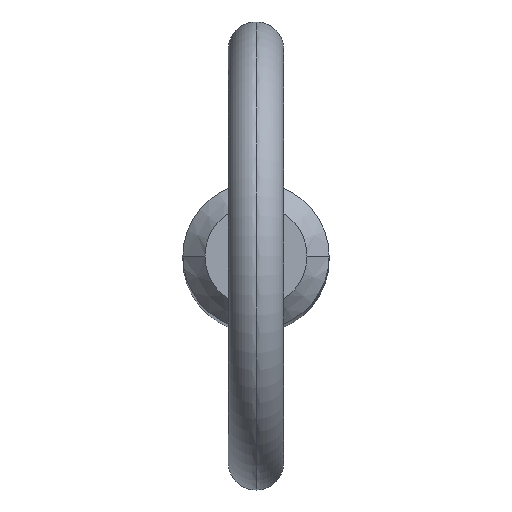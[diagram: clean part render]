
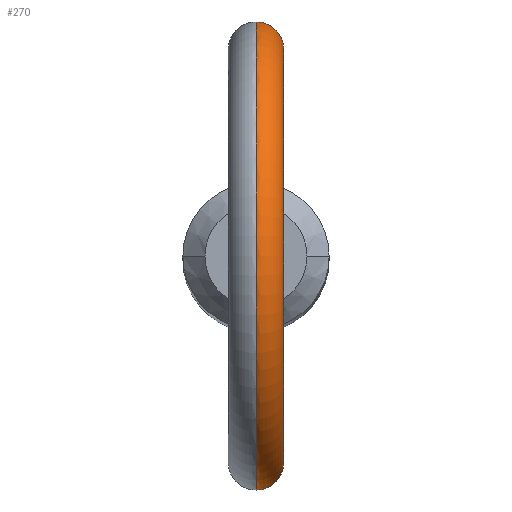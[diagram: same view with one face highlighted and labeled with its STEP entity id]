
A CAD part, top view. The second image highlights one B-rep face of the part: STEP entity #270.
In plain terms, the highlighted toroidal (fillet/blend) face has major radius 11.2 mm and minor radius 1.5 mm.
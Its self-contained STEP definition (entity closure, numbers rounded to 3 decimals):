
#2 = CARTESIAN_POINT ( 'NONE',  ( 0., 3.965, 95.247 ) ) ;
#13 = CARTESIAN_POINT ( 'NONE',  ( 0.404, -3.946, 95.182 ) ) ;
#19 = AXIS2_PLACEMENT_3D ( 'NONE', #433, #244, #319 ) ;
#39 = CARTESIAN_POINT ( 'NONE',  ( 1.499, 3.671, 93.394 ) ) ;
#44 = FACE_OUTER_BOUND ( 'NONE', #103, .T. ) ;
#55 = CARTESIAN_POINT ( 'NONE',  ( 0.949, -3.851, 92.349 ) ) ;
#62 = DIRECTION ( 'NONE',  ( 0., 0., -1. ) ) ;
#63 = DIRECTION ( 'NONE',  ( 1., 0., 0. ) ) ;
#70 = EDGE_CURVE ( 'NONE', #350, #146, #361, .T. ) ;
#72 = CARTESIAN_POINT ( 'NONE',  ( 0.782, 3.888, 92.237 ) ) ;
#77 = CARTESIAN_POINT ( 'NONE',  ( 1.344, 3.731, 92.803 ) ) ;
#81 = CARTESIAN_POINT ( 'NONE',  ( 0., -3.965, 95.247 ) ) ;
#84 = CARTESIAN_POINT ( 'NONE',  ( 0., 3.965, 95.247 ) ) ;
#89 = CIRCLE ( 'NONE', #19, 12.7 ) ;
#103 = EDGE_LOOP ( 'NONE', ( #407, #424, #453, #127 ) ) ;
#119 = CARTESIAN_POINT ( 'NONE',  ( 1.447, 3.692, 93.093 ) ) ;
#127 = ORIENTED_EDGE ( 'NONE', *, *, #363, .F. ) ;
#137 = CARTESIAN_POINT ( 'NONE',  ( 0.205, -3.961, 95.234 ) ) ;
#141 = CARTESIAN_POINT ( 'NONE',  ( 1.291, -3.75, 94.383 ) ) ;
#142 = CARTESIAN_POINT ( 'NONE',  ( 1.471, -3.682, 93.194 ) ) ;
#146 = VERTEX_POINT ( 'NONE', #330 ) ;
#149 = CIRCLE ( 'NONE', #184, 9.7 ) ;
#167 = CARTESIAN_POINT ( 'NONE',  ( 1.488, 3.675, 93.805 ) ) ;
#177 = CARTESIAN_POINT ( 'NONE',  ( 1.346, -3.73, 92.808 ) ) ;
#179 = CARTESIAN_POINT ( 'NONE',  ( 1.499, -3.671, 93.397 ) ) ;
#180 = CARTESIAN_POINT ( 'NONE',  ( 0.782, -3.888, 92.237 ) ) ;
#184 = AXIS2_PLACEMENT_3D ( 'NONE', #359, #202, #312 ) ;
#195 = CARTESIAN_POINT ( 'NONE',  ( 0.41, 3.948, 92.074 ) ) ;
#196 = CARTESIAN_POINT ( 'NONE',  ( 0., -3.965, 95.247 ) ) ;
#199 = CARTESIAN_POINT ( 'NONE',  ( 1.47, 3.682, 93.192 ) ) ;
#202 = DIRECTION ( 'NONE',  ( 1., 0., 0. ) ) ;
#213 = CARTESIAN_POINT ( 'NONE',  ( 0.102, -3.965, 95.247 ) ) ;
#216 = CARTESIAN_POINT ( 'NONE',  ( 0.205, -3.965, 92.035 ) ) ;
#217 = CARTESIAN_POINT ( 'NONE',  ( 1.503, -3.669, 93.499 ) ) ;
#231 = CARTESIAN_POINT ( 'NONE',  ( 0.204, 3.965, 92.035 ) ) ;
#243 = CARTESIAN_POINT ( 'NONE',  ( 0.769, 3.894, 95.001 ) ) ;
#244 = DIRECTION ( 'NONE',  ( 1., 0., 0. ) ) ;
#260 = CARTESIAN_POINT ( 'NONE',  ( 1.447, -3.692, 93.093 ) ) ;
#270 = ADVANCED_FACE ( 'NONE', ( #44 ), #458, .T. ) ;
#280 = CARTESIAN_POINT ( 'NONE',  ( 1.026, 3.831, 92.413 ) ) ;
#296 = CARTESIAN_POINT ( 'NONE',  ( 0.498, -3.935, 95.144 ) ) ;
#297 = CARTESIAN_POINT ( 'NONE',  ( 1.237, -3.77, 92.631 ) ) ;
#298 = VERTEX_POINT ( 'NONE', #423 ) ;
#304 = CARTESIAN_POINT ( 'NONE',  ( 0., 0., 104.1 ) ) ;
#312 = DIRECTION ( 'NONE',  ( 0., 0., -1. ) ) ;
#316 = CARTESIAN_POINT ( 'NONE',  ( 1.236, 3.77, 92.629 ) ) ;
#319 = DIRECTION ( 'NONE',  ( 0., 0., -1. ) ) ;
#330 = CARTESIAN_POINT ( 'NONE',  ( 0., -3.965, 92.035 ) ) ;
#333 = CARTESIAN_POINT ( 'NONE',  ( 1.028, -3.83, 92.415 ) ) ;
#347 = EDGE_CURVE ( 'NONE', #298, #146, #89, .T. ) ;
#350 = VERTEX_POINT ( 'NONE', #81 ) ;
#351 = CARTESIAN_POINT ( 'NONE',  ( 0.206, 3.965, 95.247 ) ) ;
#359 = CARTESIAN_POINT ( 'NONE',  ( 0., 0., 104.1 ) ) ;
#361 = B_SPLINE_CURVE_WITH_KNOTS ( 'NONE', 3,
 ( #196, #213, #137, #13, #296, #493, #415, #418, #141, #374, #492, #379, #417, #217, #179, #142, #260, #177, #297, #333, #55, #180, #446, #450, #216, #496 ),
 .UNSPECIFIED., .F., .F.,
 ( 4, 2, 2, 2, 2, 2, 2, 2, 2, 2, 2, 2, 4 ),
 ( 0.004, 0.005, 0.005, 0.005, 0.006, 0.006, 0.007, 0.007, 0.007, 0.008, 0.008, 0.008, 0.009 ),
 .UNSPECIFIED. ) ;
#362 = CARTESIAN_POINT ( 'NONE',  ( 1.185, 3.786, 94.56 ) ) ;
#363 = EDGE_CURVE ( 'NONE', #381, #350, #149, .T. ) ;
#374 = CARTESIAN_POINT ( 'NONE',  ( 1.404, -3.708, 94.101 ) ) ;
#379 = CARTESIAN_POINT ( 'NONE',  ( 1.479, -3.679, 93.807 ) ) ;
#381 = VERTEX_POINT ( 'NONE', #84 ) ;
#396 = CARTESIAN_POINT ( 'NONE',  ( 0.927, 3.858, 94.867 ) ) ;
#403 = CARTESIAN_POINT ( 'NONE',  ( 1.503, 3.669, 93.498 ) ) ;
#407 = ORIENTED_EDGE ( 'NONE', *, *, #411, .F. ) ;
#411 = EDGE_CURVE ( 'NONE', #298, #381, #432, .T. ) ;
#415 = CARTESIAN_POINT ( 'NONE',  ( 0.925, -3.858, 94.868 ) ) ;
#417 = CARTESIAN_POINT ( 'NONE',  ( 1.493, -3.673, 93.704 ) ) ;
#418 = CARTESIAN_POINT ( 'NONE',  ( 1.186, -3.786, 94.559 ) ) ;
#423 = CARTESIAN_POINT ( 'NONE',  ( 0., 3.965, 92.035 ) ) ;
#424 = ORIENTED_EDGE ( 'NONE', *, *, #347, .T. ) ;
#432 = B_SPLINE_CURVE_WITH_KNOTS ( 'NONE', 3,
 ( #507, #231, #195, #471, #72, #509, #280, #316, #77, #119, #199, #39, #403, #167, #437, #474, #362, #396, #243, #512, #351, #2 ),
 .UNSPECIFIED., .F., .F.,
 ( 4, 2, 2, 2, 2, 2, 2, 2, 2, 2, 4 ),
 ( 0.001, 0.001, 0.002, 0.002, 0.003, 0.003, 0.003, 0.004, 0.004, 0.005, 0.006 ),
 .UNSPECIFIED. ) ;
#433 = CARTESIAN_POINT ( 'NONE',  ( 0., 0., 104.1 ) ) ;
#435 = AXIS2_PLACEMENT_3D ( 'NONE', #304, #63, #62 ) ;
#437 = CARTESIAN_POINT ( 'NONE',  ( 1.441, 3.695, 94.008 ) ) ;
#446 = CARTESIAN_POINT ( 'NONE',  ( 0.693, -3.905, 92.19 ) ) ;
#450 = CARTESIAN_POINT ( 'NONE',  ( 0.409, -3.948, 92.074 ) ) ;
#453 = ORIENTED_EDGE ( 'NONE', *, *, #70, .F. ) ;
#458 = TOROIDAL_SURFACE ( 'NONE', #435, 11.2, 1.5 ) ;
#471 = CARTESIAN_POINT ( 'NONE',  ( 0.691, 3.905, 92.189 ) ) ;
#474 = CARTESIAN_POINT ( 'NONE',  ( 1.291, 3.75, 94.384 ) ) ;
#492 = CARTESIAN_POINT ( 'NONE',  ( 1.434, -3.697, 94.005 ) ) ;
#493 = CARTESIAN_POINT ( 'NONE',  ( 0.77, -3.894, 95. ) ) ;
#496 = CARTESIAN_POINT ( 'NONE',  ( 0., -3.965, 92.035 ) ) ;
#507 = CARTESIAN_POINT ( 'NONE',  ( 0., 3.965, 92.035 ) ) ;
#509 = CARTESIAN_POINT ( 'NONE',  ( 0.949, 3.851, 92.349 ) ) ;
#512 = CARTESIAN_POINT ( 'NONE',  ( 0.411, 3.948, 95.191 ) ) ;
